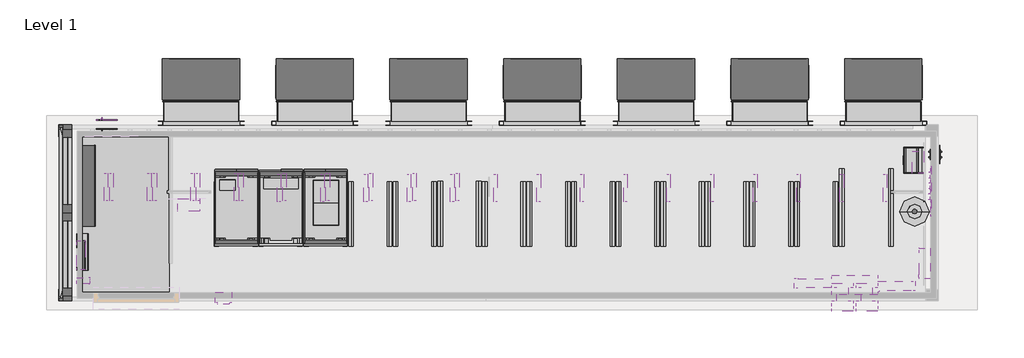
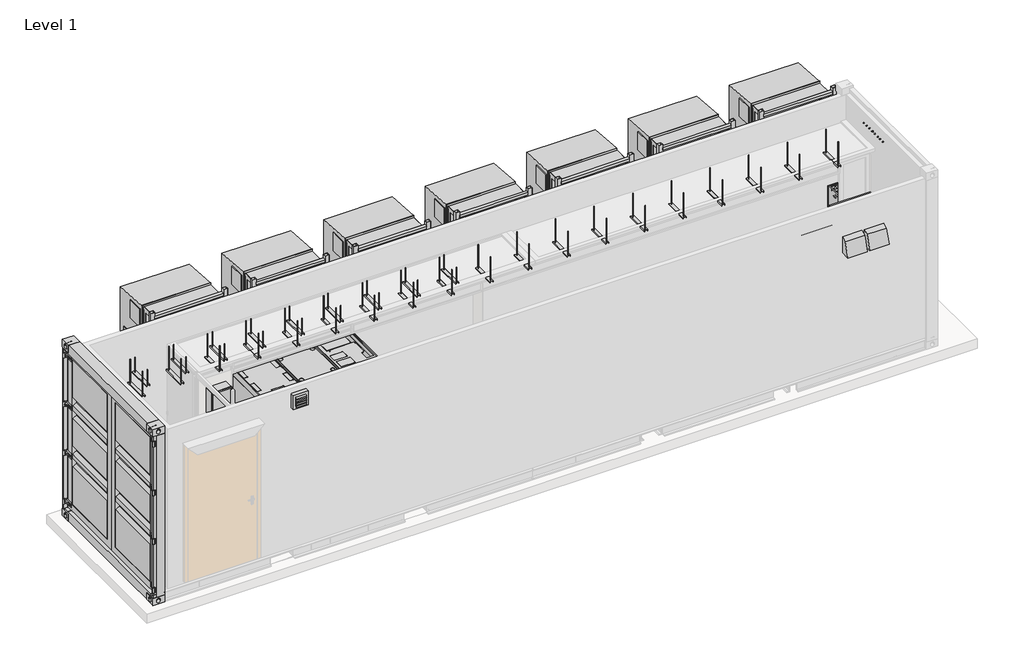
# One storey, part 2 of 2: 46 proxies, 28 cable carrier fittings, 1 alarm.
"""IFC4 building model written with IfcOpenShell, lengths in millimetres."""

from ifc_helpers import new_model, si_unit, origin, place, context, project, spatial, transform, mapped, element, save
from components import cylinder_1_cylinder_1_5c930a60, electrical_equipment_b056a7a1, electrical_equipment_63daee8f, electrical_equipment_d7194751, mechanical_equipment_268e0284, mechanical_equipment_ff092b0d, electrical_equipment_c021a49d, electrical_equipment_7d681fff, electrical_equipment_6cdaa866, generic_models_3c25a827, generic_models_1ea03f89, mechanical_equipment_c87a87b9, proxy_120v_outlet_120v_outlet_43f5f55e, cp_100_control_panel_77914c75, climate_control_climate_control_e813e11c, climate_control2_climate_control2_4c8c6d90, cooling_unit_w72lap_with_frame_cooling_unit_w72aap_with_416218e2, e2m_access_control_panel_9290570a, fire_alarm_control_panel_67536681, generator_annunciator_panel_e31edde5, i_line_power_distribution_panel_board_enclosure_5f4e2905, lobby_floor1_lobby_floor1_8a2bf536, rack_mount_base_rack_mount_base_61a671b6, rack_mount_base_750_rack_mount_base_750_28cbcc94, type_1_44b7102c, hanger_cabletray_hanger_cabletray_434e3e47, hanger_cabletray_hanger_cabletray_68d978af

model = new_model("IFC4")

# Units and contexts
model_context = context("Model", 3, world=origin())
ifc_project = project(units=[si_unit("LENGTHUNIT", "METRE", prefix="MILLI")], contexts=[model_context])

# Site, building, storey
site = spatial("IfcSite", under=ifc_project)
building = spatial("IfcBuilding", under=site)
storey = spatial("IfcBuildingStorey", under=building, Name="Level 1", Elevation=0.0)

# Alarm
placement = place(None, origin())
cylinder_1_cylinder_1_shape = cylinder_1_cylinder_1_5c930a60(model_context)
element("IfcAlarm", 1, ObjectType="Cylinder-1 : Cylinder-1", at=placement, inside=storey, context=model_context, shape_type="MappedRepresentation", body=[
    mapped(cylinder_1_cylinder_1_shape, transform((7640.2832595, -1736.5565442, 424.0), x_axis=(1.0, 0.0, 0.0), y_axis=(0.0, 1.0, 0.0), z_axis=(0.0, 0.0, 1.0))),
])

# Proxies
electrical_equipment_shape = electrical_equipment_b056a7a1(model_context)
element("IfcBuildingElementProxy", 2, Name="UPS_Symmetra_PX_100_Schneider_Electric_100kVA_BIM_Model : SY100K100F", ObjectType="UPS_Symmetra_PX_100_Schneider_Electric_100kVA_BIM_Model : SY100K100F", at=placement, inside=storey, context=model_context, shape_type="MappedRepresentation", body=[
    mapped(electrical_equipment_shape, transform((-1143.3167405, -1685.7772175, 428.2), x_axis=(1.0, 0.0, 0.0), y_axis=(0.0, 1.0, 0.0), z_axis=(0.0, 0.0, 1.0))),
])
electrical_equipment_2_shape = electrical_equipment_63daee8f(model_context)
element("IfcBuildingElementProxy", 3, Name="Modular_PDU_100kW_600_480_208V_MBP_w_XFMR_Schneider_Electric_BIM_Model : PDPM100G6F-M 100kVA Modular Power Distribution Unit, Isolation Transformer, 480-208V, 72 Pole, MBP, 1 Subfeed", ObjectType="Modular_PDU_100kW_600_480_208V_MBP_w_XFMR_Schneider_Electric_BIM_Model : PDPM100G6F-M 100kVA Modular Power Distribution Unit, Isolation Transformer, 480-208V, 72 Pole, MBP, 1 Subfeed", at=placement, inside=storey, context=model_context, shape_type="MappedRepresentation", body=[
    mapped(electrical_equipment_2_shape, transform((-525.2500739, -1685.7772172, 428.2), x_axis=(1.0, 0.0, 0.0), y_axis=(0.0, 1.0, 0.0), z_axis=(0.0, 0.0, 1.0))),
])
electrical_equipment_3_shape = electrical_equipment_d7194751(model_context)
element("IfcBuildingElementProxy", 4, Name="Symmetra_PX_Battery_96_100_160kW_Schneider_Electric_BIM_Model : SYCFXR9-9 - Symmetra PX Battery frame with 9 Battery Modules", ObjectType="Symmetra_PX_Battery_96_100_160kW_Schneider_Electric_BIM_Model : SYCFXR9-9 - Symmetra PX Battery frame with 9 Battery Modules", at=placement, inside=storey, context=model_context, shape_type="MappedRepresentation", body=[
    mapped(electrical_equipment_3_shape, transform((-1761.383409, -1685.7772172, 428.2), x_axis=(1.0, 0.0, 0.0), y_axis=(0.0, 1.0, 0.0), z_axis=(0.0, 0.0, 1.0))),
])
mechanical_equipment_shape = mechanical_equipment_268e0284(model_context)
element("IfcBuildingElementProxy", 5, Name="Bard_Controller_LC6000.BIM : Bard_Controller_LC6000_Cooling_Unit", ObjectType="Bard_Controller_LC6000.BIM : Bard_Controller_LC6000_Cooling_Unit", at=placement, inside=storey, context=model_context, shape_type="MappedRepresentation", body=[
    mapped(mechanical_equipment_shape, transform((-2424.9242767, -1557.819177, -123.4290717), x_axis=(-1.0, 0.0, 0.0), y_axis=(0.0, -1.0, 0.0), z_axis=(0.0, 0.0, 1.0))),
])
mechanical_equipment_2_shape = mechanical_equipment_ff092b0d(model_context)
element("IfcBuildingElementProxy", 6, Name="Energy_Recovery_Ventilator_ERVH100SE : ERVH100SE", ObjectType="Energy_Recovery_Ventilator_ERVH100SE : ERVH100SE", at=placement, inside=storey, context=model_context, shape_type="MappedRepresentation", body=[
    mapped(mechanical_equipment_2_shape, transform((6808.8891977, -2887.7772175, 2400.0), x_axis=(1.0, 0.0, 0.0), y_axis=(0.0, 1.0, 0.0), z_axis=(0.0, 0.0, 1.0))),
])
electrical_equipment_4_shape = electrical_equipment_c021a49d(model_context)
element("IfcBuildingElementProxy", 7, Name="Distribution_Socket_Single_rotated_1 : Distribution_Socket_Single_rotated_1", ObjectType="Distribution_Socket_Single_rotated_1 : Distribution_Socket_Single_rotated_1", at=placement, inside=storey, context=model_context, shape_type="MappedRepresentation", body=[
    mapped(electrical_equipment_4_shape, transform((-3561.2104666, -529.0362197, 722.5000373), x_axis=(1.0, 0.0, 0.0), y_axis=(0.0, 1.0, 0.0), z_axis=(0.0, 0.0, 1.0))),
])
element("IfcBuildingElementProxy", 8, Name="Distribution_Socket_Single_rotated_1 : Distribution_Socket_Single_rotated_1", ObjectType="Distribution_Socket_Single_rotated_1 : Distribution_Socket_Single_rotated_1", at=placement, inside=storey, context=model_context, shape_type="MappedRepresentation", body=[
    mapped(electrical_equipment_4_shape, transform((-3561.3957427, -529.0362197, 973.2461084), x_axis=(1.0, 0.0, 0.0), y_axis=(0.0, 1.0, 0.0), z_axis=(0.0, 0.0, 1.0))),
])
element("IfcBuildingElementProxy", 9, Name="Distribution_Socket_Single_rotated_1 : Distribution_Socket_Single_rotated_1", ObjectType="Distribution_Socket_Single_rotated_1 : Distribution_Socket_Single_rotated_1", at=placement, inside=storey, context=model_context, shape_type="MappedRepresentation", body=[
    mapped(electrical_equipment_4_shape, transform((-3561.3948581, -529.0362197, 1223.9911092), x_axis=(1.0, 0.0, 0.0), y_axis=(0.0, 1.0, 0.0), z_axis=(0.0, 0.0, 1.0))),
])
element("IfcBuildingElementProxy", 10, Name="Distribution_Socket_Single_rotated_1 : Distribution_Socket_Single_rotated_1", ObjectType="Distribution_Socket_Single_rotated_1 : Distribution_Socket_Single_rotated_1", at=placement, inside=storey, context=model_context, shape_type="MappedRepresentation", body=[
    mapped(electrical_equipment_4_shape, transform((-3561.5792496, -529.0362197, 1474.7362367), x_axis=(1.0, 0.0, 0.0), y_axis=(0.0, 1.0, 0.0), z_axis=(0.0, 0.0, 1.0))),
])
electrical_equipment_5_shape = electrical_equipment_7d681fff(model_context)
element("IfcBuildingElementProxy", 11, Name="Distribution_Socket_4_rotated : Distribution_Socket_4_rotated", ObjectType="Distribution_Socket_4_rotated : Distribution_Socket_4_rotated", at=placement, inside=storey, context=model_context, shape_type="MappedRepresentation", body=[
    mapped(electrical_equipment_5_shape, transform((7927.8891996, -1455.6088798, 2736.1843301), x_axis=(0.0, 1.0, 0.0), y_axis=(-1.0, 0.0, 0.0), z_axis=(0.0, 0.0, 1.0))),
])
electrical_equipment_6_shape = electrical_equipment_6cdaa866(model_context)
element("IfcBuildingElementProxy", 12, Name="Distribution_Socket_Single_rotated : Distribution_Socket_Single_rotated", ObjectType="Distribution_Socket_Single_rotated : Distribution_Socket_Single_rotated", at=placement, inside=storey, context=model_context, shape_type="MappedRepresentation", body=[
    mapped(electrical_equipment_6_shape, transform((7927.8891996, -946.096377, 586.2875), x_axis=(0.0, 1.0, 0.0), y_axis=(-1.0, 0.0, 0.0), z_axis=(0.0, 0.0, 1.0))),
])
generic_models_shape = generic_models_3c25a827(model_context)
generic_models_2_shape = generic_models_1ea03f89(model_context)
element("IfcBuildingElementProxy", 13, Name="Left_Wall_Container_Config-6 : Left_Wall_Container_Config-6", ObjectType="Left_Wall_Container_Config-6 : Left_Wall_Container_Config-6", at=placement, inside=storey, context=model_context, shape_type="MappedRepresentation", body=[
    mapped(generic_models_shape, transform((-4216.9160547, -1755.2772175, 250.9999915), x_axis=(0.0, -0.9999999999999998, 0.0), y_axis=(0.9999999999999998, 0.0, 0.0), z_axis=(0.0, 0.0, 1.0))),
    mapped(generic_models_2_shape, transform((-4216.9160547, -1755.2772175, 250.9999915), x_axis=(0.0, -0.9999999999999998, 0.0), y_axis=(0.9999999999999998, 0.0, 0.0), z_axis=(0.0, 0.0, 1.0))),
])
mechanical_equipment_3_shape = mechanical_equipment_c87a87b9(model_context)
element("IfcBuildingElementProxy", 14, Name="Climate_Control_acce : Climate_Control_acce", ObjectType="Climate_Control_acce : Climate_Control_acce", at=placement, inside=storey, context=model_context, shape_type="MappedRepresentation", body=[
    mapped(mechanical_equipment_3_shape, transform((7688.1365732, -1054.7565442, 2162.5839185), x_axis=(1.0, 0.0, 0.0), y_axis=(0.0, 1.0, 0.0), z_axis=(0.0, 0.0, 1.0))),
])
proxy_120v_outlet_120v_outlet_shape = proxy_120v_outlet_120v_outlet_43f5f55e(model_context)
element("IfcBuildingElementProxy", 15, Name="120V Outlet : 120V Outlet", ObjectType="120V Outlet : 120V Outlet", at=placement, inside=storey, context=model_context, shape_type="MappedRepresentation", body=[
    mapped(proxy_120v_outlet_120v_outlet_shape, transform((-3974.1108107, -2695.4651504, -360.0), x_axis=(0.0, -1.0, 0.0), y_axis=(1.0, 0.0, 0.0), z_axis=(0.0, 0.0, 1.0))),
])
cp_100_control_panel_shape = cp_100_control_panel_77914c75(model_context)
element("IfcBuildingElementProxy", 16, Name="CP-100_Control_Panel_Wallmount_BIM_Model_Config6 : CP-100 Control panel", ObjectType="CP-100_Control_Panel_Wallmount_BIM_Model_Config6 : CP-100 Control panel", at=placement, inside=storey, context=model_context, shape_type="MappedRepresentation", body=[
    mapped(cp_100_control_panel_shape, transform((-3974.1108107, -2183.1288443, 476.1502108), x_axis=(0.0, -1.0, 0.0), y_axis=(1.0, 0.0, 0.0), z_axis=(0.0, 0.0, 1.0))),
])
climate_control_climate_control_shape = climate_control_climate_control_e813e11c(model_context)
element("IfcBuildingElementProxy", 17, Name="Climate Control : Climate Control", ObjectType="Climate Control : Climate Control", at=placement, inside=storey, context=model_context, shape_type="MappedRepresentation", body=[
    mapped(climate_control_climate_control_shape, transform((6828.1036349, -2897.3355591, 2300.0), x_axis=(1.0000000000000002, 0.0, 0.0), y_axis=(0.0, 1.0000000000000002, 0.0), z_axis=(0.0, 0.0, 1.0))),
])
element("IfcBuildingElementProxy", 18, Name="Climate Control : Climate Control", ObjectType="Climate Control : Climate Control", at=placement, inside=storey, context=model_context, shape_type="MappedRepresentation", body=[
    mapped(climate_control_climate_control_shape, transform((6489.8016977, -2897.3355591, 2300.0), x_axis=(1.0000000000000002, 0.0, 0.0), y_axis=(0.0, 1.0000000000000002, 0.0), z_axis=(0.0, 0.0, 1.0))),
])
climate_control2_climate_control2_shape = climate_control2_climate_control2_4c8c6d90(model_context)
element("IfcBuildingElementProxy", 19, Name="Climate_Control2 : Climate_Control2", ObjectType="Climate_Control2 : Climate_Control2", at=placement, inside=storey, context=model_context, shape_type="MappedRepresentation", body=[
    mapped(climate_control2_climate_control2_shape, transform((-1942.6108023, -2930.2772175, 2730.25), x_axis=(1.0, 0.0, 0.0), y_axis=(0.0, 1.0, 0.0), z_axis=(0.0, 0.0, 1.0))),
])
cooling_unit_w72lap_with_frame_cooling_unit_w72aap_with_shape = cooling_unit_w72lap_with_frame_cooling_unit_w72aap_with_416218e2(model_context)
element("IfcBuildingElementProxy", 20, Name="Cooling_Unit_W72LAP_With_Frame : Cooling Unit - W72AAP-With Frame", ObjectType="Cooling_Unit_W72LAP_With_Frame : Cooling Unit - W72AAP-With Frame", at=placement, inside=storey, context=model_context, shape_type="MappedRepresentation", body=[
    mapped(cooling_unit_w72lap_with_frame_cooling_unit_w72aap_with_shape, transform((7209.1488449, -579.2772175, 255.0603779), x_axis=(1.0, 0.0, 0.0), y_axis=(0.0, 1.0, 0.0), z_axis=(0.0, 0.0, 1.0))),
])
element("IfcBuildingElementProxy", 21, Name="Cooling_Unit_W72LAP_With_Frame : Cooling Unit - W72AAP-With Frame", ObjectType="Cooling_Unit_W72LAP_With_Frame : Cooling Unit - W72AAP-With Frame", at=placement, inside=storey, context=model_context, shape_type="MappedRepresentation", body=[
    mapped(cooling_unit_w72lap_with_frame_cooling_unit_w72aap_with_shape, transform((5634.5410552, -579.2772175, 255.3043182), x_axis=(1.0, 0.0, 0.0), y_axis=(0.0, 1.0, 0.0), z_axis=(0.0, 0.0, 1.0))),
])
element("IfcBuildingElementProxy", 22, Name="Cooling_Unit_W72LAP_With_Frame : Cooling Unit - W72AAP-With Frame", ObjectType="Cooling_Unit_W72LAP_With_Frame : Cooling Unit - W72AAP-With Frame", at=placement, inside=storey, context=model_context, shape_type="MappedRepresentation", body=[
    mapped(cooling_unit_w72lap_with_frame_cooling_unit_w72aap_with_shape, transform((4057.7626881, -579.2772175, 255.0471665), x_axis=(1.0, 0.0, 0.0), y_axis=(0.0, 1.0, 0.0), z_axis=(0.0, 0.0, 1.0))),
])
element("IfcBuildingElementProxy", 23, Name="Cooling_Unit_W72LAP_With_Frame : Cooling Unit - W72AAP-With Frame", ObjectType="Cooling_Unit_W72LAP_With_Frame : Cooling Unit - W72AAP-With Frame", at=placement, inside=storey, context=model_context, shape_type="MappedRepresentation", body=[
    mapped(cooling_unit_w72lap_with_frame_cooling_unit_w72aap_with_shape, transform((903.9567745, -579.2772175, 255.0471665), x_axis=(1.0, 0.0, 0.0), y_axis=(0.0, 1.0, 0.0), z_axis=(0.0, 0.0, 1.0))),
])
element("IfcBuildingElementProxy", 24, Name="Cooling_Unit_W72LAP_With_Frame : Cooling Unit - W72AAP-With Frame", ObjectType="Cooling_Unit_W72LAP_With_Frame : Cooling Unit - W72AAP-With Frame", at=placement, inside=storey, context=model_context, shape_type="MappedRepresentation", body=[
    mapped(cooling_unit_w72lap_with_frame_cooling_unit_w72aap_with_shape, transform((-2250.6055805, -579.2772175, 255.0471665), x_axis=(1.0, 0.0, 0.0), y_axis=(0.0, 1.0, 0.0), z_axis=(0.0, 0.0, 1.0))),
])
element("IfcBuildingElementProxy", 25, Name="Cooling_Unit_W72LAP_With_Frame : Cooling Unit - W72AAP-With Frame", ObjectType="Cooling_Unit_W72LAP_With_Frame : Cooling Unit - W72AAP-With Frame", at=placement, inside=storey, context=model_context, shape_type="MappedRepresentation", body=[
    mapped(cooling_unit_w72lap_with_frame_cooling_unit_w72aap_with_shape, transform((-673.6957647, -579.2772175, 255.0471665), x_axis=(1.0, 0.0, 0.0), y_axis=(0.0, 1.0, 0.0), z_axis=(0.0, 0.0, 1.0))),
])
element("IfcBuildingElementProxy", 26, Name="Cooling_Unit_W72LAP_With_Frame : Cooling Unit - W72AAP-With Frame", ObjectType="Cooling_Unit_W72LAP_With_Frame : Cooling Unit - W72AAP-With Frame", at=placement, inside=storey, context=model_context, shape_type="MappedRepresentation", body=[
    mapped(cooling_unit_w72lap_with_frame_cooling_unit_w72aap_with_shape, transform((2480.9765916, -579.2772175, 255.0471665), x_axis=(1.0, 0.0, 0.0), y_axis=(0.0, 1.0, 0.0), z_axis=(0.0, 0.0, 1.0))),
])
e2m_access_control_panel_shape = e2m_access_control_panel_9290570a(model_context)
element("IfcBuildingElementProxy", 27, Name="E2M_Access_Control_Panel_config6 : E2M-Access Control Panel", ObjectType="E2M_Access_Control_Panel_config6 : E2M-Access Control Panel", at=placement, inside=storey, context=model_context, shape_type="MappedRepresentation", body=[
    mapped(e2m_access_control_panel_shape, transform((-3974.1108107, -2344.3509214, 781.9768847), x_axis=(0.0, -1.0, 0.0), y_axis=(1.0, 0.0, 0.0), z_axis=(0.0, 0.0, 1.0))),
])
fire_alarm_control_panel_shape = fire_alarm_control_panel_67536681(model_context)
element("IfcBuildingElementProxy", 28, Name="Fire_Alarm_Control_Panel_Wallmount_BIM_Model : Fire Alarm Control Panel", ObjectType="Fire_Alarm_Control_Panel_Wallmount_BIM_Model : Fire Alarm Control Panel", at=placement, inside=storey, context=model_context, shape_type="MappedRepresentation", body=[
    mapped(fire_alarm_control_panel_shape, transform((7905.3891987, -2580.7565442, 1400.0), x_axis=(0.0, 1.0, 0.0), y_axis=(-1.0, 0.0, 0.0), z_axis=(0.0, 0.0, 1.0))),
])
generator_annunciator_panel_shape = generator_annunciator_panel_e31edde5(model_context)
element("IfcBuildingElementProxy", 29, Name="Generator_Annunciator_Panel_Wallmount_BIM_Model_Config6 : Generator Annunciator Panel", ObjectType="Generator_Annunciator_Panel_Wallmount_BIM_Model_Config6 : Generator Annunciator Panel", at=placement, inside=storey, context=model_context, shape_type="MappedRepresentation", body=[
    mapped(generator_annunciator_panel_shape, transform((-3999.1108107, -2219.3509214, 676.1502108), x_axis=(0.0, -1.0, 0.0), y_axis=(1.0, 0.0, 0.0), z_axis=(0.0, 0.0, 1.0))),
])
i_line_power_distribution_panel_board_enclosure_shape = i_line_power_distribution_panel_board_enclosure_5f4e2905(model_context)
element("IfcBuildingElementProxy", 30, Name="I-Line_Power_Distribution_Panel_Board_Enclosure_MDP-100_Config10_BIM_Model : I-Line Power Distribution Panel Board Enclosure", ObjectType="I-Line_Power_Distribution_Panel_Board_Enclosure_MDP-100_Config10_BIM_Model : I-Line Power Distribution Panel Board Enclosure", at=placement, inside=storey, context=model_context, shape_type="MappedRepresentation", body=[
    mapped(i_line_power_distribution_panel_board_enclosure_shape, transform((-3841.6108107, -1379.9285403, 424.0), x_axis=(0.0, 1.0000000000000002, 0.0), y_axis=(-1.0000000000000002, 0.0, 0.0), z_axis=(0.0, 0.0, 1.0))),
])
lobby_floor1_lobby_floor1_shape = lobby_floor1_lobby_floor1_8a2bf536(model_context)
element("IfcBuildingElementProxy", 31, Name="Lobby_floor1 : Lobby_floor1", ObjectType="Lobby_floor1 : Lobby_floor1", at=placement, inside=storey, context=model_context, shape_type="MappedRepresentation", body=[
    mapped(lobby_floor1_lobby_floor1_shape, transform((-3315.8167405, -1755.2772175, 428.2), x_axis=(1.0, 0.0, 0.0), y_axis=(0.0, 1.0, 0.0), z_axis=(0.0, 0.0, 1.0))),
])
rack_mount_base_rack_mount_base_shape = rack_mount_base_rack_mount_base_61a671b6(model_context)
element("IfcBuildingElementProxy", 32, Name="Rack_Mount_Base : Rack_Mount_Base", ObjectType="Rack_Mount_Base : Rack_Mount_Base", at=placement, inside=storey, context=model_context, shape_type="MappedRepresentation", body=[
    mapped(rack_mount_base_rack_mount_base_shape, transform((-2069.383409, -1320.7772172, 424.0), x_axis=(1.0, 0.0, 0.0), y_axis=(0.0, 1.0, 0.0), z_axis=(0.0, 0.0, 1.0))),
])
element("IfcBuildingElementProxy", 33, Name="Rack_Mount_Base : Rack_Mount_Base", ObjectType="Rack_Mount_Base : Rack_Mount_Base", at=placement, inside=storey, context=model_context, shape_type="MappedRepresentation", body=[
    mapped(rack_mount_base_rack_mount_base_shape, transform((-1451.4437665, -1320.8205387, 424.0), x_axis=(1.0, 0.0, 0.0), y_axis=(0.0, 1.0, 0.0), z_axis=(0.0, 0.0, 1.0))),
])
element("IfcBuildingElementProxy", 34, Name="Rack_Mount_Base : Rack_Mount_Base", ObjectType="Rack_Mount_Base : Rack_Mount_Base", at=placement, inside=storey, context=model_context, shape_type="MappedRepresentation", body=[
    mapped(rack_mount_base_rack_mount_base_shape, transform((-207.1834072, -1320.5706605, 424.0), x_axis=(1.0, 0.0, 0.0), y_axis=(0.0, 1.0, 0.0), z_axis=(0.0, 0.0, 1.0))),
])
element("IfcBuildingElementProxy", 35, Name="Rack_Mount_Base : Rack_Mount_Base", ObjectType="Rack_Mount_Base : Rack_Mount_Base", at=placement, inside=storey, context=model_context, shape_type="MappedRepresentation", body=[
    mapped(rack_mount_base_rack_mount_base_shape, transform((410.8832595, -1320.6206361, 424.0), x_axis=(1.0, 0.0, 0.0), y_axis=(0.0, 1.0, 0.0), z_axis=(0.0, 0.0, 1.0))),
])
element("IfcBuildingElementProxy", 36, Name="Rack_Mount_Base : Rack_Mount_Base", ObjectType="Rack_Mount_Base : Rack_Mount_Base", at=placement, inside=storey, context=model_context, shape_type="MappedRepresentation", body=[
    mapped(rack_mount_base_rack_mount_base_shape, transform((1030.3610372, -1317.8205387, 424.0), x_axis=(1.0, 0.0, 0.0), y_axis=(0.0, 1.0, 0.0), z_axis=(0.0, 0.0, 1.0))),
])
element("IfcBuildingElementProxy", 37, Name="Rack_Mount_Base : Rack_Mount_Base", ObjectType="Rack_Mount_Base : Rack_Mount_Base", at=placement, inside=storey, context=model_context, shape_type="MappedRepresentation", body=[
    mapped(rack_mount_base_rack_mount_base_shape, transform((1647.7080129, -1320.6272906, 424.0), x_axis=(1.0, 0.0, 0.0), y_axis=(0.0, 1.0, 0.0), z_axis=(0.0, 0.0, 1.0))),
])
element("IfcBuildingElementProxy", 38, Name="Rack_Mount_Base : Rack_Mount_Base", ObjectType="Rack_Mount_Base : Rack_Mount_Base", at=placement, inside=storey, context=model_context, shape_type="MappedRepresentation", body=[
    mapped(rack_mount_base_rack_mount_base_shape, transform((2266.4943706, -1320.7272419, 424.0), x_axis=(1.0, 0.0, 0.0), y_axis=(0.0, 1.0, 0.0), z_axis=(0.0, 0.0, 1.0))),
])
element("IfcBuildingElementProxy", 39, Name="Rack_Mount_Base : Rack_Mount_Base", ObjectType="Rack_Mount_Base : Rack_Mount_Base", at=placement, inside=storey, context=model_context, shape_type="MappedRepresentation", body=[
    mapped(rack_mount_base_rack_mount_base_shape, transform((2884.5610372, -1320.7772175, 424.0), x_axis=(1.0, 0.0, 0.0), y_axis=(0.0, 1.0, 0.0), z_axis=(0.0, 0.0, 1.0))),
])
element("IfcBuildingElementProxy", 40, Name="Rack_Mount_Base : Rack_Mount_Base", ObjectType="Rack_Mount_Base : Rack_Mount_Base", at=placement, inside=storey, context=model_context, shape_type="MappedRepresentation", body=[
    mapped(rack_mount_base_rack_mount_base_shape, transform((3502.6277039, -1320.7772175, 424.0), x_axis=(1.0, 0.0, 0.0), y_axis=(0.0, 1.0, 0.0), z_axis=(0.0, 0.0, 1.0))),
])
element("IfcBuildingElementProxy", 41, Name="Rack_Mount_Base : Rack_Mount_Base", ObjectType="Rack_Mount_Base : Rack_Mount_Base", at=placement, inside=storey, context=model_context, shape_type="MappedRepresentation", body=[
    mapped(rack_mount_base_rack_mount_base_shape, transform((4122.1054817, -1320.7772175, 424.0), x_axis=(1.0, 0.0, 0.0), y_axis=(0.0, 1.0, 0.0), z_axis=(0.0, 0.0, 1.0))),
])
element("IfcBuildingElementProxy", 42, Name="Rack_Mount_Base : Rack_Mount_Base", ObjectType="Rack_Mount_Base : Rack_Mount_Base", at=placement, inside=storey, context=model_context, shape_type="MappedRepresentation", body=[
    mapped(rack_mount_base_rack_mount_base_shape, transform((4740.1721484, -1320.7272419, 424.0), x_axis=(1.0, 0.0, 0.0), y_axis=(0.0, 1.0, 0.0), z_axis=(0.0, 0.0, 1.0))),
])
element("IfcBuildingElementProxy", 43, Name="Rack_Mount_Base : Rack_Mount_Base", ObjectType="Rack_Mount_Base : Rack_Mount_Base", at=placement, inside=storey, context=model_context, shape_type="MappedRepresentation", body=[
    mapped(rack_mount_base_rack_mount_base_shape, transform((5358.2388132, -1320.7772175, 424.0), x_axis=(1.0, 0.0, 0.0), y_axis=(0.0, 1.0, 0.0), z_axis=(0.0, 0.0, 1.0))),
])
element("IfcBuildingElementProxy", 44, Name="Rack_Mount_Base : Rack_Mount_Base", ObjectType="Rack_Mount_Base : Rack_Mount_Base", at=placement, inside=storey, context=model_context, shape_type="MappedRepresentation", body=[
    mapped(rack_mount_base_rack_mount_base_shape, transform((5977.7165928, -1320.7772175, 424.0), x_axis=(1.0, 0.0, 0.0), y_axis=(0.0, 1.0, 0.0), z_axis=(0.0, 0.0, 1.0))),
])
element("IfcBuildingElementProxy", 45, Name="Rack_Mount_Base : Rack_Mount_Base", ObjectType="Rack_Mount_Base : Rack_Mount_Base", at=placement, inside=storey, context=model_context, shape_type="MappedRepresentation", body=[
    mapped(rack_mount_base_rack_mount_base_shape, transform((-825.2500739, -1320.5206852, 424.0), x_axis=(1.0, 0.0, 0.0), y_axis=(0.0, 1.0, 0.0), z_axis=(0.0, 0.0, 1.0))),
])
rack_mount_base_750_rack_mount_base_750_shape = rack_mount_base_750_rack_mount_base_750_28cbcc94(model_context)
element("IfcBuildingElementProxy", 46, Name="Rack_Mount_Base_750 : Rack_Mount_Base_750", ObjectType="Rack_Mount_Base_750 : Rack_Mount_Base_750", at=placement, inside=storey, context=model_context, shape_type="MappedRepresentation", body=[
    mapped(rack_mount_base_750_rack_mount_base_750_shape, transform((6596.7721484, -1141.7772175, 424.0), x_axis=(1.0, 0.0, 0.0), y_axis=(0.0, 1.0, 0.0), z_axis=(0.0, 0.0, 1.0))),
])
type_1_shape = type_1_44b7102c(model_context)
element("IfcBuildingElementProxy", 47, Name="UE001 - Carel_Humidifier_Wallmount_BIM_Model : Type 1", ObjectType="UE001 - Carel_Humidifier_Wallmount_BIM_Model : Type 1", at=placement, inside=storey, context=model_context, shape_type="MappedRepresentation", body=[
    mapped(type_1_shape, transform((7768.6365732, -1023.7276708, 646.2875), x_axis=(0.0, 1.0, 0.0), y_axis=(-1.0, 0.0, 0.0), z_axis=(0.0, 0.0, 1.0))),
])

# Cable carrier fittings
hanger_cabletray_hanger_cabletray_shape = hanger_cabletray_hanger_cabletray_434e3e47(model_context)
element("IfcCableCarrierFitting", 48, ObjectType="Hanger_CableTray : Hanger_CableTray", at=placement, inside=storey, context=model_context, shape_type="MappedRepresentation", body=[
    mapped(hanger_cabletray_hanger_cabletray_shape, transform((-3494.5012088, -1232.2772175, 2737.0), x_axis=(0.0, 1.0, 0.0), y_axis=(-1.0, 0.0, 0.0), z_axis=(0.0, 0.0, 1.0))),
])
element("IfcCableCarrierFitting", 49, ObjectType="Hanger_CableTray : Hanger_CableTray", at=placement, inside=storey, context=model_context, shape_type="MappedRepresentation", body=[
    mapped(hanger_cabletray_hanger_cabletray_shape, transform((-2894.5012088, -1232.2772175, 2737.0), x_axis=(0.0, 1.0, 0.0), y_axis=(-1.0, 0.0, 0.0), z_axis=(0.0, 0.0, 1.0))),
])
element("IfcCableCarrierFitting", 50, ObjectType="Hanger_CableTray : Hanger_CableTray", at=placement, inside=storey, context=model_context, shape_type="MappedRepresentation", body=[
    mapped(hanger_cabletray_hanger_cabletray_shape, transform((-2294.5012088, -1232.2772175, 2737.0), x_axis=(0.0, 1.0, 0.0), y_axis=(-1.0, 0.0, 0.0), z_axis=(0.0, 0.0, 1.0))),
])
element("IfcCableCarrierFitting", 51, ObjectType="Hanger_CableTray : Hanger_CableTray", at=placement, inside=storey, context=model_context, shape_type="MappedRepresentation", body=[
    mapped(hanger_cabletray_hanger_cabletray_shape, transform((-1694.5012088, -1232.2772175, 2737.0), x_axis=(0.0, 1.0, 0.0), y_axis=(-1.0, 0.0, 0.0), z_axis=(0.0, 0.0, 1.0))),
])
element("IfcCableCarrierFitting", 52, ObjectType="Hanger_CableTray : Hanger_CableTray", at=placement, inside=storey, context=model_context, shape_type="MappedRepresentation", body=[
    mapped(hanger_cabletray_hanger_cabletray_shape, transform((-1094.5012088, -1232.2772175, 2737.0), x_axis=(0.0, 1.0, 0.0), y_axis=(-1.0, 0.0, 0.0), z_axis=(0.0, 0.0, 1.0))),
])
element("IfcCableCarrierFitting", 53, ObjectType="Hanger_CableTray : Hanger_CableTray", at=placement, inside=storey, context=model_context, shape_type="MappedRepresentation", body=[
    mapped(hanger_cabletray_hanger_cabletray_shape, transform((-494.5012088, -1232.2772175, 2737.0), x_axis=(0.0, 1.0, 0.0), y_axis=(-1.0, 0.0, 0.0), z_axis=(0.0, 0.0, 1.0))),
])
element("IfcCableCarrierFitting", 54, ObjectType="Hanger_CableTray : Hanger_CableTray", at=placement, inside=storey, context=model_context, shape_type="MappedRepresentation", body=[
    mapped(hanger_cabletray_hanger_cabletray_shape, transform((105.4987912, -1232.2772175, 2737.0), x_axis=(0.0, 1.0, 0.0), y_axis=(-1.0, 0.0, 0.0), z_axis=(0.0, 0.0, 1.0))),
])
element("IfcCableCarrierFitting", 55, ObjectType="Hanger_CableTray : Hanger_CableTray", at=placement, inside=storey, context=model_context, shape_type="MappedRepresentation", body=[
    mapped(hanger_cabletray_hanger_cabletray_shape, transform((705.4987912, -1232.2772175, 2737.0), x_axis=(0.0, 1.0, 0.0), y_axis=(-1.0, 0.0, 0.0), z_axis=(0.0, 0.0, 1.0))),
])
element("IfcCableCarrierFitting", 56, ObjectType="Hanger_CableTray : Hanger_CableTray", at=placement, inside=storey, context=model_context, shape_type="MappedRepresentation", body=[
    mapped(hanger_cabletray_hanger_cabletray_shape, transform((1305.4987912, -1232.2772175, 2737.0), x_axis=(0.0, 1.0, 0.0), y_axis=(-1.0, 0.0, 0.0), z_axis=(0.0, 0.0, 1.0))),
])
hanger_cabletray_hanger_cabletray_2_shape = hanger_cabletray_hanger_cabletray_68d978af(model_context)
element("IfcCableCarrierFitting", 57, ObjectType="Hanger_CableTray : Hanger_CableTray", at=placement, inside=storey, context=model_context, shape_type="MappedRepresentation", body=[
    mapped(hanger_cabletray_hanger_cabletray_2_shape, transform((-3569.5012088, -1232.2772175, 2586.5), x_axis=(0.0, 1.0, 0.0), y_axis=(-1.0, 0.0, 0.0), z_axis=(0.0, 0.0, 1.0))),
])
element("IfcCableCarrierFitting", 58, ObjectType="Hanger_CableTray : Hanger_CableTray", at=placement, inside=storey, context=model_context, shape_type="MappedRepresentation", body=[
    mapped(hanger_cabletray_hanger_cabletray_2_shape, transform((-2969.5012088, -1232.2772175, 2586.5), x_axis=(0.0, 1.0, 0.0), y_axis=(-1.0, 0.0, 0.0), z_axis=(0.0, 0.0, 1.0))),
])
element("IfcCableCarrierFitting", 59, ObjectType="Hanger_CableTray : Hanger_CableTray", at=placement, inside=storey, context=model_context, shape_type="MappedRepresentation", body=[
    mapped(hanger_cabletray_hanger_cabletray_2_shape, transform((-2369.5012088, -1232.2772175, 2586.5), x_axis=(0.0, 1.0, 0.0), y_axis=(-1.0, 0.0, 0.0), z_axis=(0.0, 0.0, 1.0))),
])
element("IfcCableCarrierFitting", 60, ObjectType="Hanger_CableTray : Hanger_CableTray", at=placement, inside=storey, context=model_context, shape_type="MappedRepresentation", body=[
    mapped(hanger_cabletray_hanger_cabletray_2_shape, transform((-1769.5012088, -1232.2772175, 2586.5), x_axis=(0.0, 1.0, 0.0), y_axis=(-1.0, 0.0, 0.0), z_axis=(0.0, 0.0, 1.0))),
])
element("IfcCableCarrierFitting", 61, ObjectType="Hanger_CableTray : Hanger_CableTray", at=placement, inside=storey, context=model_context, shape_type="MappedRepresentation", body=[
    mapped(hanger_cabletray_hanger_cabletray_2_shape, transform((-1169.5012088, -1243.2452169, 2586.5), x_axis=(0.0, 1.0, 0.0), y_axis=(-1.0, 0.0, 0.0), z_axis=(0.0, 0.0, 1.0))),
])
element("IfcCableCarrierFitting", 62, ObjectType="Hanger_CableTray : Hanger_CableTray", at=placement, inside=storey, context=model_context, shape_type="MappedRepresentation", body=[
    mapped(hanger_cabletray_hanger_cabletray_2_shape, transform((-569.5012088, -1243.2452169, 2586.5), x_axis=(0.0, 1.0, 0.0), y_axis=(-1.0, 0.0, 0.0), z_axis=(0.0, 0.0, 1.0))),
])
element("IfcCableCarrierFitting", 63, ObjectType="Hanger_CableTray : Hanger_CableTray", at=placement, inside=storey, context=model_context, shape_type="MappedRepresentation", body=[
    mapped(hanger_cabletray_hanger_cabletray_2_shape, transform((30.4987912, -1243.2452169, 2586.5), x_axis=(0.0, 1.0, 0.0), y_axis=(-1.0, 0.0, 0.0), z_axis=(0.0, 0.0, 1.0))),
])
element("IfcCableCarrierFitting", 64, ObjectType="Hanger_CableTray : Hanger_CableTray", at=placement, inside=storey, context=model_context, shape_type="MappedRepresentation", body=[
    mapped(hanger_cabletray_hanger_cabletray_2_shape, transform((630.4987912, -1243.2452169, 2586.5), x_axis=(0.0, 1.0, 0.0), y_axis=(-1.0, 0.0, 0.0), z_axis=(0.0, 0.0, 1.0))),
])
element("IfcCableCarrierFitting", 65, ObjectType="Hanger_CableTray : Hanger_CableTray", at=placement, inside=storey, context=model_context, shape_type="MappedRepresentation", body=[
    mapped(hanger_cabletray_hanger_cabletray_2_shape, transform((1230.4987912, -1243.2452169, 2586.5), x_axis=(0.0, 1.0, 0.0), y_axis=(-1.0, 0.0, 0.0), z_axis=(0.0, 0.0, 1.0))),
])
element("IfcCableCarrierFitting", 66, ObjectType="Hanger_CableTray : Hanger_CableTray", at=placement, inside=storey, context=model_context, shape_type="MappedRepresentation", body=[
    mapped(hanger_cabletray_hanger_cabletray_2_shape, transform((1830.4987912, -1243.2452169, 2586.5), x_axis=(0.0, 1.0, 0.0), y_axis=(-1.0, 0.0, 0.0), z_axis=(0.0, 0.0, 1.0))),
])
element("IfcCableCarrierFitting", 67, ObjectType="Hanger_CableTray : Hanger_CableTray", at=placement, inside=storey, context=model_context, shape_type="MappedRepresentation", body=[
    mapped(hanger_cabletray_hanger_cabletray_2_shape, transform((2430.4987912, -1243.2452169, 2586.5), x_axis=(0.0, 1.0, 0.0), y_axis=(-1.0, 0.0, 0.0), z_axis=(0.0, 0.0, 1.0))),
])
element("IfcCableCarrierFitting", 68, ObjectType="Hanger_CableTray : Hanger_CableTray", at=placement, inside=storey, context=model_context, shape_type="MappedRepresentation", body=[
    mapped(hanger_cabletray_hanger_cabletray_2_shape, transform((3030.4987912, -1243.2452169, 2586.5), x_axis=(0.0, 1.0, 0.0), y_axis=(-1.0, 0.0, 0.0), z_axis=(0.0, 0.0, 1.0))),
])
element("IfcCableCarrierFitting", 69, ObjectType="Hanger_CableTray : Hanger_CableTray", at=placement, inside=storey, context=model_context, shape_type="MappedRepresentation", body=[
    mapped(hanger_cabletray_hanger_cabletray_2_shape, transform((3630.4987912, -1243.2452169, 2586.5), x_axis=(0.0, 1.0, 0.0), y_axis=(-1.0, 0.0, 0.0), z_axis=(0.0, 0.0, 1.0))),
])
element("IfcCableCarrierFitting", 70, ObjectType="Hanger_CableTray : Hanger_CableTray", at=placement, inside=storey, context=model_context, shape_type="MappedRepresentation", body=[
    mapped(hanger_cabletray_hanger_cabletray_2_shape, transform((4230.4987912, -1243.2452169, 2586.5), x_axis=(0.0, 1.0, 0.0), y_axis=(-1.0, 0.0, 0.0), z_axis=(0.0, 0.0, 1.0))),
])
element("IfcCableCarrierFitting", 71, ObjectType="Hanger_CableTray : Hanger_CableTray", at=placement, inside=storey, context=model_context, shape_type="MappedRepresentation", body=[
    mapped(hanger_cabletray_hanger_cabletray_2_shape, transform((4830.4987912, -1243.2452169, 2586.5), x_axis=(0.0, 1.0, 0.0), y_axis=(-1.0, 0.0, 0.0), z_axis=(0.0, 0.0, 1.0))),
])
element("IfcCableCarrierFitting", 72, ObjectType="Hanger_CableTray : Hanger_CableTray", at=placement, inside=storey, context=model_context, shape_type="MappedRepresentation", body=[
    mapped(hanger_cabletray_hanger_cabletray_2_shape, transform((5430.8130636, -1243.2452169, 2586.5), x_axis=(0.0, 1.0, 0.0), y_axis=(-1.0, 0.0, 0.0), z_axis=(0.0, 0.0, 1.0))),
])
element("IfcCableCarrierFitting", 73, ObjectType="Hanger_CableTray : Hanger_CableTray", at=placement, inside=storey, context=model_context, shape_type="MappedRepresentation", body=[
    mapped(hanger_cabletray_hanger_cabletray_2_shape, transform((6030.8130636, -1243.2452169, 2586.5), x_axis=(0.0, 1.0, 0.0), y_axis=(-1.0, 0.0, 0.0), z_axis=(0.0, 0.0, 1.0))),
])
element("IfcCableCarrierFitting", 74, ObjectType="Hanger_CableTray : Hanger_CableTray", at=placement, inside=storey, context=model_context, shape_type="MappedRepresentation", body=[
    mapped(hanger_cabletray_hanger_cabletray_2_shape, transform((6630.8130636, -1243.2452169, 2586.5), x_axis=(0.0, 1.0, 0.0), y_axis=(-1.0, 0.0, 0.0), z_axis=(0.0, 0.0, 1.0))),
])
element("IfcCableCarrierFitting", 75, ObjectType="Hanger_CableTray : Hanger_CableTray", at=placement, inside=storey, context=model_context, shape_type="MappedRepresentation", body=[
    mapped(hanger_cabletray_hanger_cabletray_2_shape, transform((7230.8130636, -1243.2452169, 2586.5), x_axis=(0.0, 1.0, 0.0), y_axis=(-1.0, 0.0, 0.0), z_axis=(0.0, 0.0, 1.0))),
])

save(model, "model.ifc")
